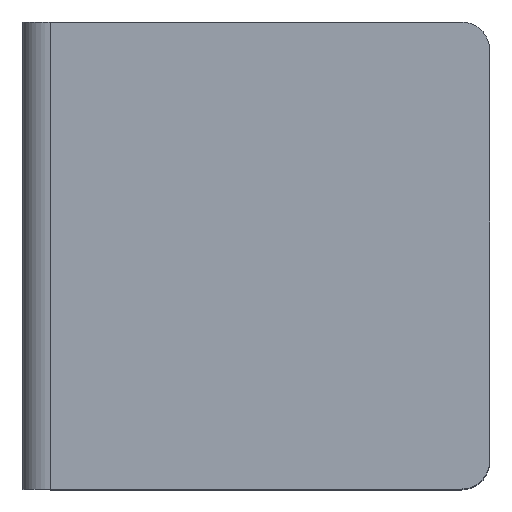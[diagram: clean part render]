
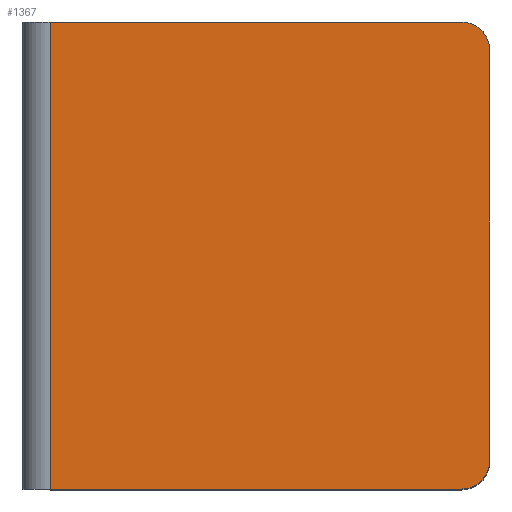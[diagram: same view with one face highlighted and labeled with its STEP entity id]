
A CAD part, top view. The second image highlights one B-rep face of the part: STEP entity #1367.
In plain terms, the highlighted planar face has unit normal (0, 0, 1).
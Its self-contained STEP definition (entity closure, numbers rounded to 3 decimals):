
#7 = DIRECTION ( 'NONE',  ( -1., 0., 0. ) ) ;
#62 = VERTEX_POINT ( 'NONE', #1305 ) ;
#86 = EDGE_CURVE ( 'NONE', #62, #1228, #1093, .T. ) ;
#97 = VECTOR ( 'NONE', #275, 1000. ) ;
#154 = LINE ( 'NONE', #946, #97 ) ;
#183 = VECTOR ( 'NONE', #630, 1000. ) ;
#188 = CARTESIAN_POINT ( 'NONE',  ( 399., 0., 475. ) ) ;
#210 = CIRCLE ( 'NONE', #873, 25. ) ;
#213 = CIRCLE ( 'NONE', #365, 25. ) ;
#225 = CARTESIAN_POINT ( 'NONE',  ( 399., 395., 475. ) ) ;
#251 = VERTEX_POINT ( 'NONE', #900 ) ;
#255 = EDGE_LOOP ( 'NONE', ( #481, #1331, #536, #568, #1104, #390 ) ) ;
#275 = DIRECTION ( 'NONE',  ( 1., 0., 0. ) ) ;
#315 = CARTESIAN_POINT ( 'NONE',  ( 29., 0., 475. ) ) ;
#331 = FACE_OUTER_BOUND ( 'NONE', #255, .T. ) ;
#338 = DIRECTION ( 'NONE',  ( -1., 0., 0. ) ) ;
#365 = AXIS2_PLACEMENT_3D ( 'NONE', #225, #1241, #338 ) ;
#368 = VECTOR ( 'NONE', #1001, 1000. ) ;
#390 = ORIENTED_EDGE ( 'NONE', *, *, #942, .T. ) ;
#481 = ORIENTED_EDGE ( 'NONE', *, *, #1068, .F. ) ;
#536 = ORIENTED_EDGE ( 'NONE', *, *, #799, .F. ) ;
#568 = ORIENTED_EDGE ( 'NONE', *, *, #86, .T. ) ;
#577 = CARTESIAN_POINT ( 'NONE',  ( 399., 420., 475. ) ) ;
#630 = DIRECTION ( 'NONE',  ( 0., -1., 0. ) ) ;
#674 = VERTEX_POINT ( 'NONE', #805 ) ;
#676 = DIRECTION ( 'NONE',  ( 0., 0., -1. ) ) ;
#754 = CARTESIAN_POINT ( 'NONE',  ( 399., 25., 475. ) ) ;
#777 = CARTESIAN_POINT ( 'NONE',  ( 29., 420., 475. ) ) ;
#799 = EDGE_CURVE ( 'NONE', #62, #1436, #154, .T. ) ;
#805 = CARTESIAN_POINT ( 'NONE',  ( 424., 25., 475. ) ) ;
#821 = CARTESIAN_POINT ( 'NONE',  ( 424., 420., 475. ) ) ;
#873 = AXIS2_PLACEMENT_3D ( 'NONE', #754, #1308, #1207 ) ;
#900 = CARTESIAN_POINT ( 'NONE',  ( 424., 395., 475. ) ) ;
#916 = PLANE ( 'NONE',  #1136 ) ;
#941 = CARTESIAN_POINT ( 'NONE',  ( 29., 420., 475. ) ) ;
#942 = EDGE_CURVE ( 'NONE', #1240, #674, #210, .T. ) ;
#946 = CARTESIAN_POINT ( 'NONE',  ( 29., 420., 475. ) ) ;
#952 = DIRECTION ( 'NONE',  ( 0., -1., 0. ) ) ;
#1001 = DIRECTION ( 'NONE',  ( 1., 0., 0. ) ) ;
#1005 = EDGE_CURVE ( 'NONE', #251, #1436, #213, .T. ) ;
#1019 = LINE ( 'NONE', #1225, #368 ) ;
#1068 = EDGE_CURVE ( 'NONE', #251, #674, #1379, .T. ) ;
#1093 = LINE ( 'NONE', #941, #183 ) ;
#1104 = ORIENTED_EDGE ( 'NONE', *, *, #1364, .T. ) ;
#1136 = AXIS2_PLACEMENT_3D ( 'NONE', #777, #676, #7 ) ;
#1207 = DIRECTION ( 'NONE',  ( -1., 0., 0. ) ) ;
#1225 = CARTESIAN_POINT ( 'NONE',  ( 29., 0., 475. ) ) ;
#1228 = VERTEX_POINT ( 'NONE', #315 ) ;
#1240 = VERTEX_POINT ( 'NONE', #188 ) ;
#1241 = DIRECTION ( 'NONE',  ( 0., 0., 1. ) ) ;
#1305 = CARTESIAN_POINT ( 'NONE',  ( 29., 420., 475. ) ) ;
#1308 = DIRECTION ( 'NONE',  ( 0., 0., 1. ) ) ;
#1331 = ORIENTED_EDGE ( 'NONE', *, *, #1005, .T. ) ;
#1364 = EDGE_CURVE ( 'NONE', #1228, #1240, #1019, .T. ) ;
#1367 = ADVANCED_FACE ( 'NONE', ( #331 ), #916, .F. ) ;
#1379 = LINE ( 'NONE', #821, #1458 ) ;
#1436 = VERTEX_POINT ( 'NONE', #577 ) ;
#1458 = VECTOR ( 'NONE', #952, 1000. ) ;
